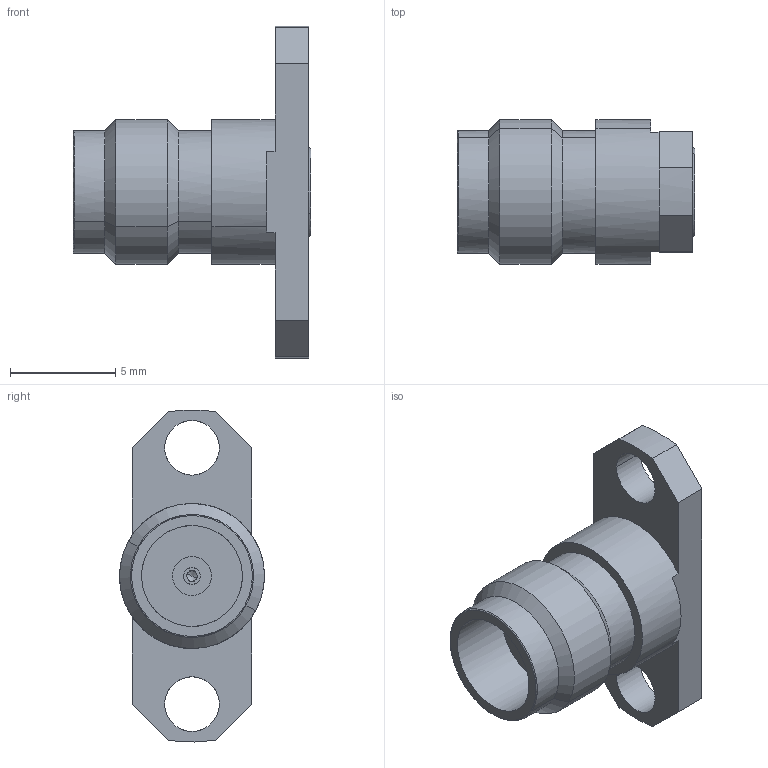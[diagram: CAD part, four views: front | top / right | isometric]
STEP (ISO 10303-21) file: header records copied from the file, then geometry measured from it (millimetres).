
FILE_DESCRIPTION(('CATIA V5 STEP Exchange'),'2;1');
FILE_NAME('C:\Documents and Settings\Administrator\桌面\98-02-9E5-002(REV.A).stp','2013-05-11T04:13:03+00:00',('none'),('none'),'CATIA Version 5 Release 17 (IN-10)','CATIA V5 STEP AP203','none');
FILE_SCHEMA(('CONFIG_CONTROL_DESIGN'));
Length unit declared in the file: millimetre
Products named in the file (1): 98-02-9E5-002(REV.A)
Bounding box: 11.3 x 6.9 x 15.8 mm (x, y, z)
Volume: 373.9 mm3; surface area: 532.1 mm2
Topology: 1 solids, 1 shells, 73 faces, 184 edges, 116 vertices
Faces by surface type: plane 33, cylinder 28, cone 10, torus 2
Entity records: 2548 total; most frequent: CARTESIAN_POINT 904, ORIENTED_EDGE 360, DIRECTION 259, EDGE_CURVE 180, VERTEX_POINT 116, AXIS2_PLACEMENT_3D 102, VECTOR 96, LINE 96
